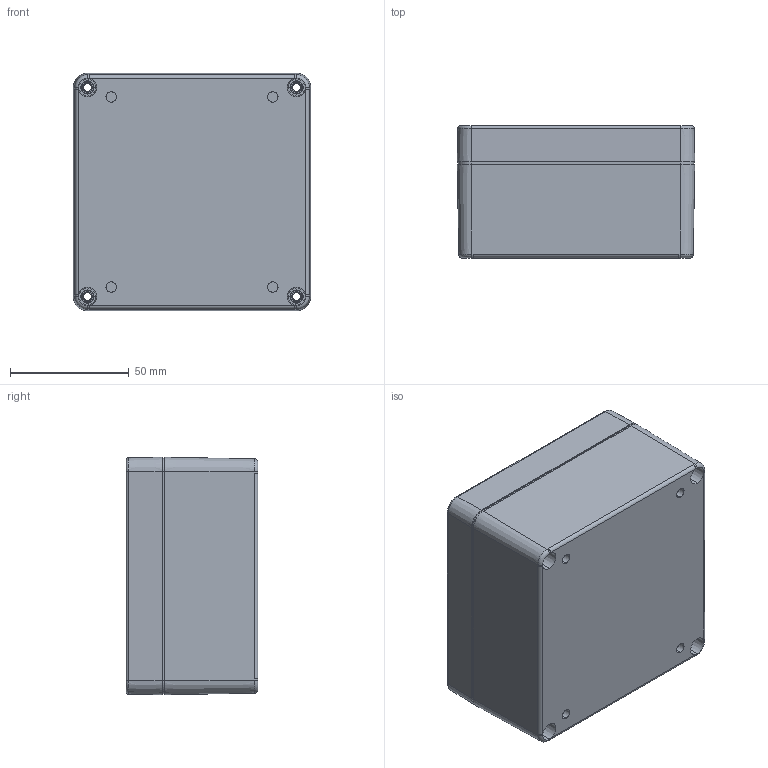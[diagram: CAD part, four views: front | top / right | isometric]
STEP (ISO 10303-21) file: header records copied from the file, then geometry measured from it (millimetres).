
FILE_DESCRIPTION (( 'STEP AP203' ), '1' );
FILE_NAME ('PE218.STEP', '2019-11-26T08:45:03', ( '' ), ( '' ), 'SwSTEP 2.0', 'SolidWorks 2020', '' );
FILE_SCHEMA (( 'CONFIG_CONTROL_DESIGN' ));
Length unit declared in the file: millimetre
Products named in the file (4): PE218
Assembly tree (3 placements, depth 2):
  PE218
    PE218
    PE218
    PE218
Bounding box: 100 x 55.5 x 100 mm (x, y, z)
Volume: 150567.5 mm3; surface area: 117007.6 mm2
Topology: 11 solids, 11 shells, 1323 faces, 3514 edges, 2260 vertices
Faces by surface type: bspline 448, cylinder 364, plane 293, cone 210, torus 8
Entity records: 46074 total; most frequent: CARTESIAN_POINT 15415, ORIENTED_EDGE 6988, DIRECTION 5448, EDGE_CURVE 3494, VERTEX_POINT 2260, AXIS2_PLACEMENT_3D 1993, VECTOR 1462, LINE 1462
